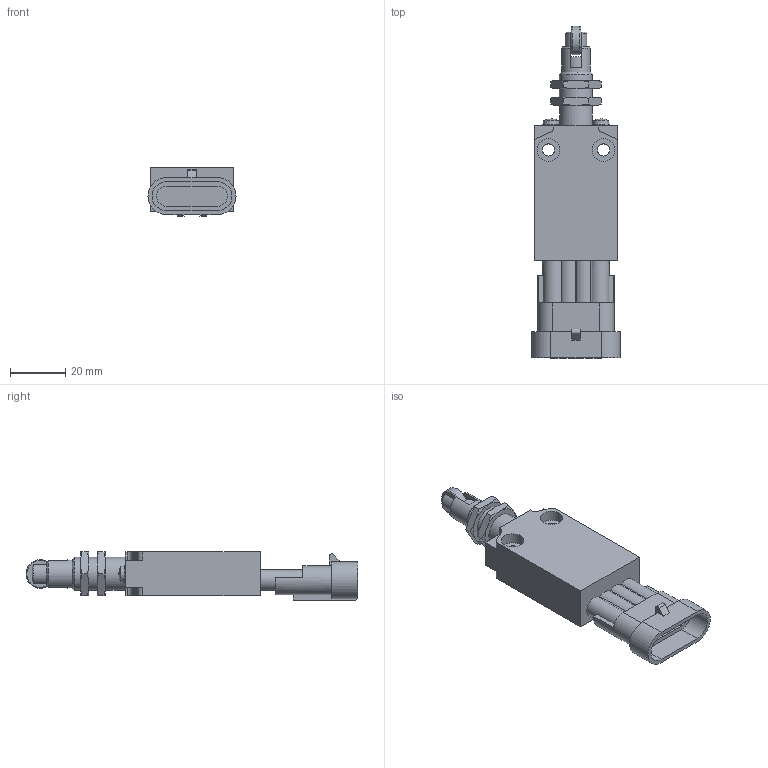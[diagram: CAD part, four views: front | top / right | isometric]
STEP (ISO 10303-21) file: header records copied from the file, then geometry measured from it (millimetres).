
FILE_DESCRIPTION(/* description */ (''),/* implementation_level */ '2;1');
FILE_NAME(/* name */ 'C:\Users\servizio.tecnico\Desktop\CADENAS\3D\EP1_STP\STP_EP1_G24A.stp',/* time_stamp */ '2017-09-04T09:46:34+02:00',/* author */ ('servizio.tecnico'),/* organization */ (''),/* preprocessor_version */ 'ST-DEVELOPER v16.1',/* originating_system */ 'Autodesk Inventor 2016',/* authorisation */ '');
FILE_SCHEMA (('AUTOMOTIVE_DESIGN { 1 0 10303 214 3 1 1 }'));
Length unit declared in the file: millimetre
Products named in the file (3): Product; EP1G24-A; BASE ASSI 
Assembly tree (2 placements, depth 3):
  BASE ASSI 
    EP1G24-A
      Product
Bounding box: 32 x 120.5 x 17.5 mm (x, y, z)
Volume: 31941.3 mm3; surface area: 14944.5 mm2
Topology: 6 solids, 6 shells, 210 faces, 527 edges, 337 vertices
Faces by surface type: plane 117, cylinder 52, cone 37, sphere 2, torus 2
Full cylindrical faces by diameter (mm): 4.4 x2, 5.6 x2, 7.95 x1, 8.05 x1, 8.2 x4, 10.4 x1, 10.5 x1, 12 x3
Entity records: 6162 total; most frequent: CARTESIAN_POINT 1161, DIRECTION 1024, ORIENTED_EDGE 984, EDGE_CURVE 492, AXIS2_PLACEMENT_3D 381, VERTEX_POINT 326, LINE 262, VECTOR 262
